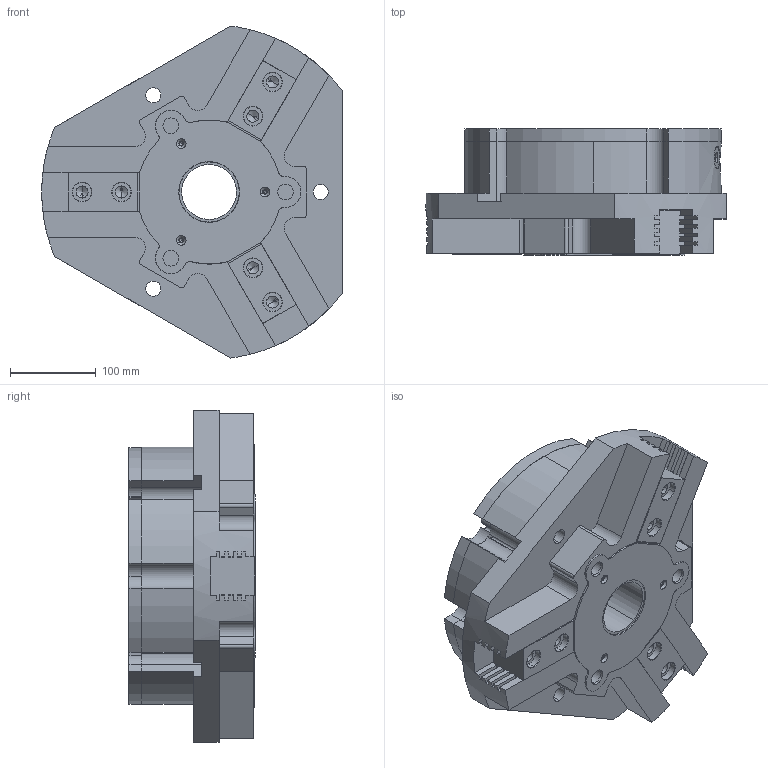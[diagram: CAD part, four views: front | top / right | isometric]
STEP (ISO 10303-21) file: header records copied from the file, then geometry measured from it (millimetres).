
FILE_DESCRIPTION (( 'STEP AP214' ), '1' );
FILE_NAME ('THB-300A-1.STEP', '2020-09-11T06:25:22', ( '' ), ( '' ), 'SwSTEP 2.0', 'SolidWorks 2016', '' );
FILE_SCHEMA (( 'AUTOMOTIVE_DESIGN' ));
Length unit declared in the file: millimetre
Products named in the file (6): THB-300A-1-05; THB-300A-1-03; THB-300A-1-02; THB-300A-1-04; THB-300A-1-01; THB-300A-1
Assembly tree (7 placements, depth 2):
  THB-300A-1
    THB-300A-1-01
    THB-300A-1-02  x3
    THB-300A-1-03
    THB-300A-1-04
    THB-300A-1-05
Bounding box: 349.86 x 147 x 386.79 mm (x, y, z)
Volume: 9441745.8 mm3; surface area: 874472.7 mm2
Topology: 7 solids, 7 shells, 581 faces, 1621 edges, 1052 vertices
Faces by surface type: plane 325, cylinder 200, cone 56
Entity records: 15719 total; most frequent: CARTESIAN_POINT 2768, DIRECTION 2713, ORIENTED_EDGE 2546, EDGE_CURVE 1273, AXIS2_PLACEMENT_3D 973, VERTEX_POINT 840, LINE 767, VECTOR 767
